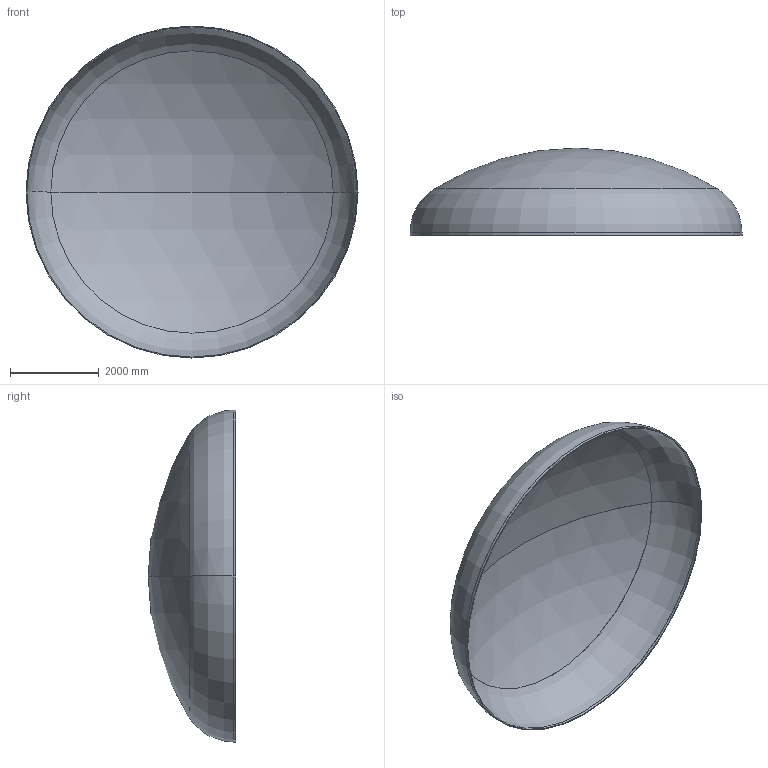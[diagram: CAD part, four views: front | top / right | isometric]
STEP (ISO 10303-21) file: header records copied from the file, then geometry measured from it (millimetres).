
FILE_DESCRIPTION (( 'STEP AP203' ), '1' );
FILE_NAME ('DIN 28013 Korbbogenform_-_Boden DIN 28013 - 7500 x 60 - I - s=19.step', '2016-07-04T10:52:00', ( '' ), ( '' ), 'SwSTEP 2.0', 'SolidWorks 2013', '' );
FILE_SCHEMA (( 'CONFIG_CONTROL_DESIGN' ));
Length unit declared in the file: millimetre
Products named in the file (1): DIN 28013 Korbbogenform_-_Boden DIN 28013 - 7500 x 60 - I - s=19
Bounding box: 7500 x 1975.56 x 7500 mm (x, y, z)
Volume: 1185546815.9 mm3; surface area: 125241649.4 mm2
Topology: 1 solids, 1 shells, 13 faces, 24 edges, 14 vertices
Faces by surface type: torus 4, cylinder 4, sphere 4, plane 1
Entity records: 407 total; most frequent: DIRECTION 72, CARTESIAN_POINT 52, ORIENTED_EDGE 48, AXIS2_PLACEMENT_3D 34, EDGE_CURVE 24, CIRCLE 20, VERTEX_POINT 14, EDGE_LOOP 14
